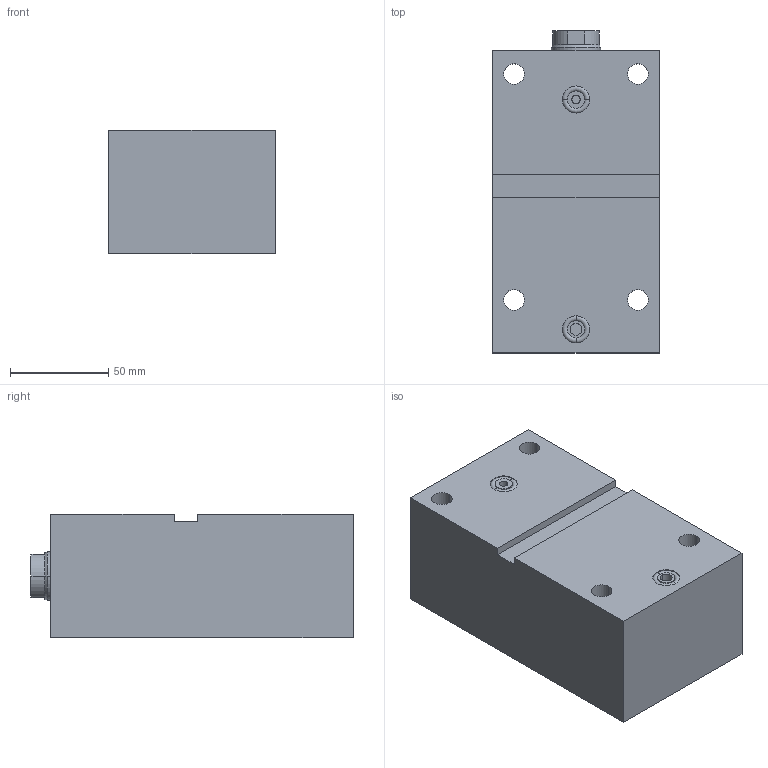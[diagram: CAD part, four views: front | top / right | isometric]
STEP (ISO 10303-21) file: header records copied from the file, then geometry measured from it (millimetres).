
FILE_DESCRIPTION (( 'STEP AP203' ), '1' );
FILE_NAME ('GERMA_Blockzylinder_603-040-100.STEP', '2016-04-06T15:57:41', ( '' ), ( '' ), 'SwSTEP 2.0', 'SolidWorks 2015', '' );
FILE_SCHEMA (( 'CONFIG_CONTROL_DESIGN' ));
Length unit declared in the file: millimetre
Products named in the file (3): GH-600-040_GH-603-040-100; Kolben 60x-040_Kolben DU.40-Hub100-IG; GERMA_Blockzylinder_603-040-100
Assembly tree (2 placements, depth 2):
  GERMA_Blockzylinder_603-040-100
    GH-600-040_GH-603-040-100
    Kolben 60x-040_Kolben DU.40-Hub100-IG
Bounding box: 85 x 164 x 63 mm (x, y, z)
Volume: 721054.6 mm3; surface area: 99740 mm2
Topology: 2 solids, 2 shells, 85 faces, 188 edges, 114 vertices
Faces by surface type: cylinder 41, plane 26, cone 14, torus 4
Entity records: 2638 total; most frequent: DIRECTION 459, CARTESIAN_POINT 386, ORIENTED_EDGE 364, AXIS2_PLACEMENT_3D 187, EDGE_CURVE 182, VERTEX_POINT 114, EDGE_LOOP 106, CIRCLE 97
